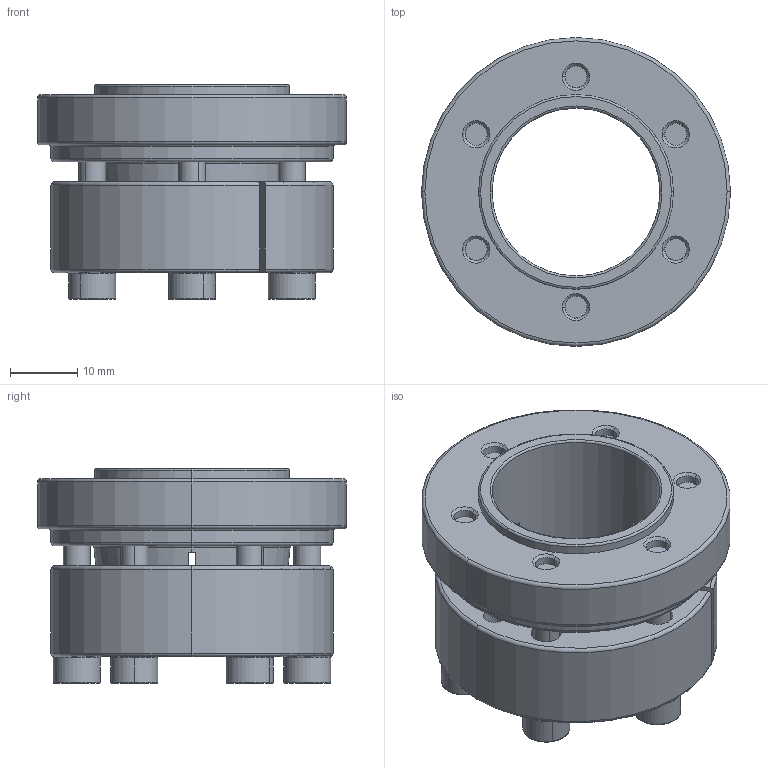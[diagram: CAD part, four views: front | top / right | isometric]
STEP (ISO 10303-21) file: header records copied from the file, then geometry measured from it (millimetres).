
FILE_DESCRIPTION (( 'STEP AP203' ), '1' );
FILE_NAME ('SAPC-25-42.STEP', '2013-07-25T04:05:16', ( 'MYCOM' ), ( '' ), 'SwSTEP 2.0', 'SolidWorks 2012', '' );
FILE_SCHEMA (( 'CONFIG_CONTROL_DESIGN' ));
Length unit declared in the file: millimetre
Products named in the file (1): SAPC-25-42
Bounding box: 46 x 46 x 32 mm (x, y, z)
Volume: 24015.6 mm3; surface area: 13087.2 mm2
Topology: 1 solids, 1 shells, 309 faces, 733 edges, 432 vertices
Faces by surface type: plane 114, cylinder 77, torus 73, cone 45
Entity records: 9067 total; most frequent: CARTESIAN_POINT 1685, DIRECTION 1676, ORIENTED_EDGE 1442, EDGE_CURVE 721, AXIS2_PLACEMENT_3D 691, VERTEX_POINT 432, CIRCLE 381, EDGE_LOOP 353
